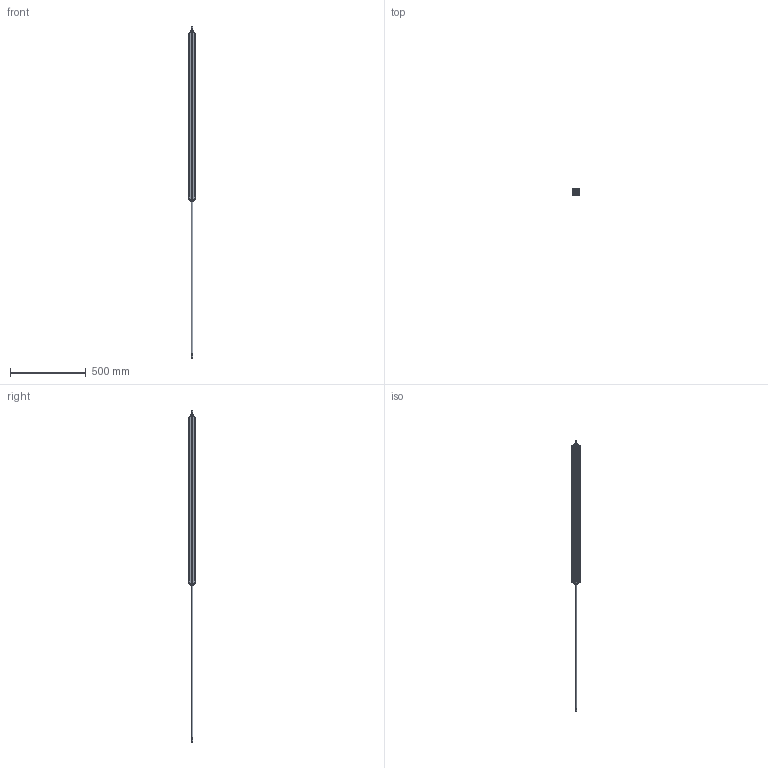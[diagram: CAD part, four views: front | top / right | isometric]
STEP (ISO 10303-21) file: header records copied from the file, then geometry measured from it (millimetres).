
FILE_DESCRIPTION((''),'2;1');
FILE_NAME('F:\Lib-3d\1380\CIL\1380_32_1000_02.stp','2004-01-07T16:03:14',('maffial1'),(''),'Autodesk Inventor 8','Autodesk Inventor 8','');
FILE_SCHEMA(('AUTOMOTIVE_DESIGN { 1 0 10303 214 1 1 1 1 }'));
Length unit declared in the file: millimetre
Products named in the file (3): 1380_32_1000_02; CPP04_32_1000; CPP03_32_1000
Assembly tree (2 placements, depth 2):
  1380_32_1000_02
    CPP04_32_1000
    CPP03_32_1000
Bounding box: 46 x 46 x 2190 mm (x, y, z)
Volume: 2170921.1 mm3; surface area: 379804.4 mm2
Topology: 2 solids, 2 shells, 236 faces, 564 edges, 356 vertices
Faces by surface type: plane 80, cylinder 66, bspline 62, cone 24, torus 4
Entity records: 7513 total; most frequent: CARTESIAN_POINT 2031, DIRECTION 1154, ORIENTED_EDGE 1096, EDGE_CURVE 548, AXIS2_PLACEMENT_3D 427, VERTEX_POINT 356, VECTOR 300, LINE 300
